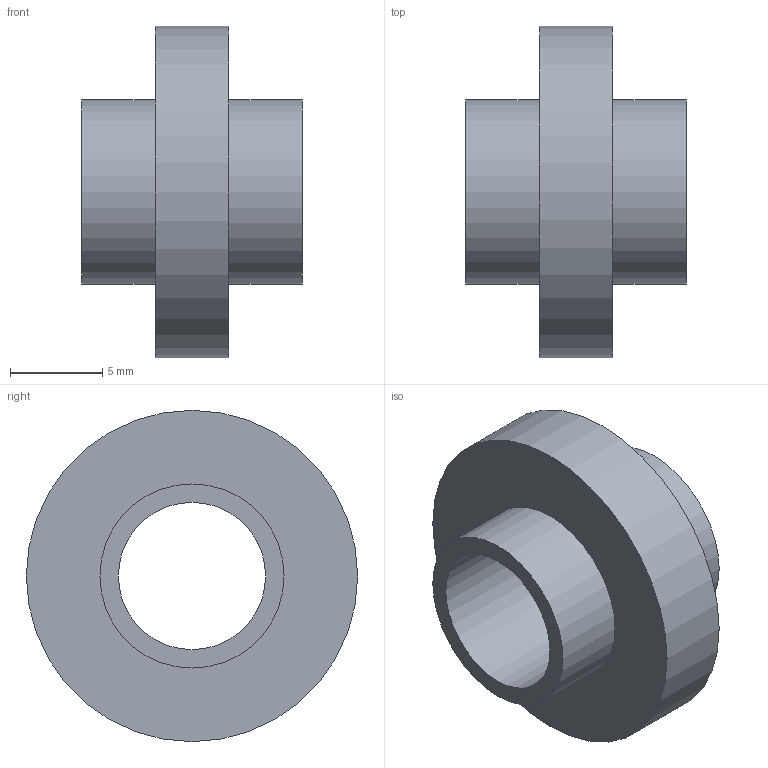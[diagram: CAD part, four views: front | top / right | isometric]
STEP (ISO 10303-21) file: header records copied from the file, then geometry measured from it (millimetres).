
FILE_DESCRIPTION(/* description */ ('STEP AP214'),/* implementation_level */ '2;1');
FILE_NAME(/* name */ 'Mounting Accessory GN 753.2-8-10-4-AB-NI',/* time_stamp */ '2024-12-09T14:01:07+01:00',/* author */ ('License CC BY-ND 4.0'),/* organization */ ('CADENAS'),/* preprocessor_version */ 'ST-DEVELOPER v19.3',/* originating_system */ 'PARTsolutions',/* authorisation */ ' ');
FILE_SCHEMA (('AUTOMOTIVE_DESIGN {1 0 10303 214 3 1 1}'));
Length unit declared in the file: millimetre
Products named in the file (1): Mounting Accessory GN 753.2-8-10-4-AB-NI
Bounding box: 12 x 18 x 18 mm (x, y, z)
Volume: 1043 mm3; surface area: 1187.5 mm2
Topology: 1 solids, 1 shells, 8 faces, 12 edges, 8 vertices
Faces by surface type: plane 4, cylinder 4
Full cylindrical faces by diameter (mm): 8 x1, 10 x2, 18 x1
Entity records: 198 total; most frequent: DIRECTION 34, CARTESIAN_POINT 25, AXIS2_PLACEMENT_3D 17, ORIENTED_EDGE 16, EDGE_LOOP 16, FACE_BOUND 16, EDGE_CURVE 8, VERTEX_POINT 8
